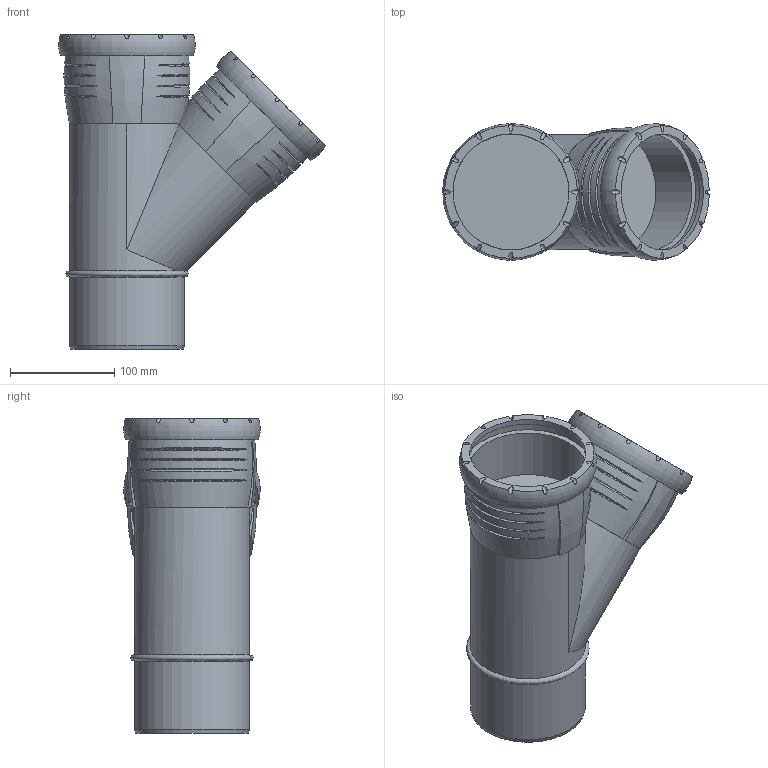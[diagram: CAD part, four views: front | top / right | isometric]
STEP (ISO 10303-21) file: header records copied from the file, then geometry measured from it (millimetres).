
FILE_DESCRIPTION(/* description */ (''),/* implementation_level */ '2;1');
FILE_NAME(/* name */ 'H:\Geberit-Teile\Export\Abzweig PP\stp\393535.stp',/* time_stamp */ '2017-02-13T13:19:02+01:00',/* author */ ('seihe2'),/* organization */ (''),/* preprocessor_version */ 'ST-DEVELOPER v15.2',/* originating_system */ 'Autodesk Inventor 2014',/* authorisation */ '');
FILE_SCHEMA (('AUTOMOTIVE_DESIGN { 1 0 10303 214 3 1 1 }'));
Length unit declared in the file: millimetre
Products named in the file (1): 393535
Bounding box: 255.57 x 130.89 x 301.22 mm (x, y, z)
Volume: 2817411.6 mm3; surface area: 316408.2 mm2
Topology: 5 solids, 5 shells, 108 faces, 250 edges, 176 vertices
Faces by surface type: bspline 45, cylinder 41, plane 19, torus 2, cone 1
Full cylindrical faces by diameter (mm): 90 x2, 101.2 x1, 110.2 x3, 111 x2, 111.3 x2, 121.5 x2
Entity records: 7586 total; most frequent: CARTESIAN_POINT 5372, ORIENTED_EDGE 456, DIRECTION 340, EDGE_CURVE 227, AXIS2_PLACEMENT_3D 170, VERTEX_POINT 169, EDGE_LOOP 150, B_SPLINE_CURVE_WITH_KNOTS 120
